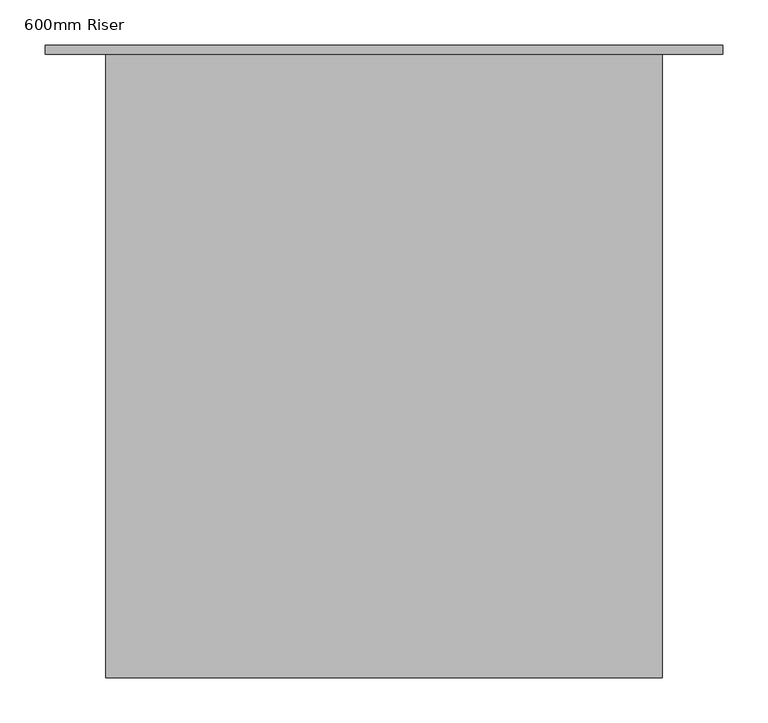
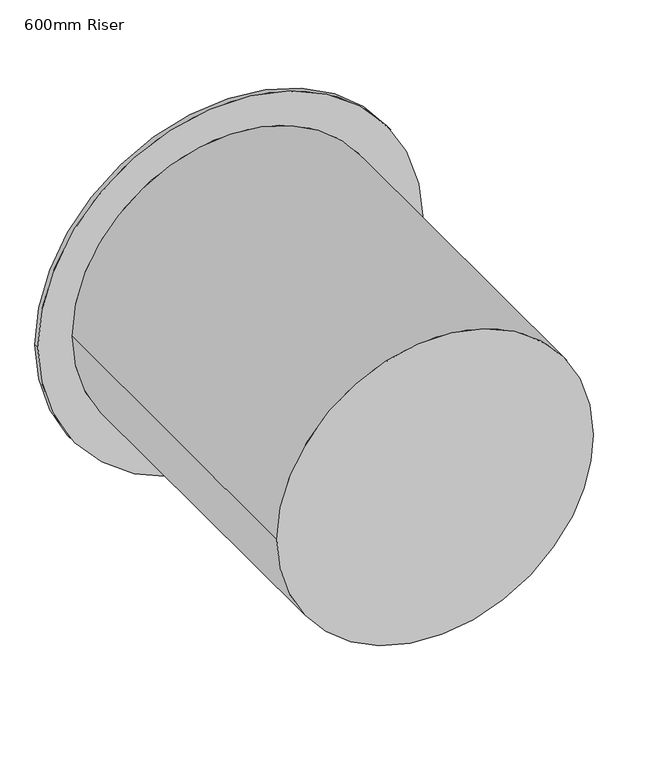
"""IFC4 building model written with IfcOpenShell, lengths in millimetres: proxy geometry, 600mm Riser."""

from ifc_helpers import new_model, si_unit, frame, origin, place, context, project, spatial, circle_curve, source, transform, mapped, element, save
from ifc_brep_helpers import plane_surface, cylinder_surface, advanced_brep


def proxy_600mm_riser_809a013f(model_context):
    return source(origin(), model_context, "Body", "AdvancedBrep", [
        advanced_brep(
        [(-375.0, 2490.0, 0.0), (-375.0, 2500.0, 0.0), (375.0, 2500.0, 0.0), (375.0, 2490.0, 0.0), (-308.0, 1800.0, 0.0), (-308.0, 2490.0, 0.0), (308.0, 2490.0, 0.0), (308.0, 1800.0, 0.0), (267.4864837, 1800.0, -152.6924394)],
        [
            (0, 1),
            (1, 2, circle_curve(frame((0.0, 2500.0, 0.0), z_axis=(0.0, -1.0, 0.0), x_axis=(-1.0, 0.0, 0.0)), 375.0)),
            (2, 3),
            (3, 0, circle_curve(frame((0.0, 2490.0, 0.0), z_axis=(0.0, 1.0, 0.0), x_axis=(-1.0, 0.0, 0.0)), 375.0)),
            (4, 5),
            (5, 6, circle_curve(frame((0.0, 2490.0, 0.0), z_axis=(0.0, -1.0, 0.0), x_axis=(-1.0, 0.0, 0.0)), 308.0)),
            (6, 7),
            (7, 8, circle_curve(frame((0.0, 1800.0, 0.0), z_axis=(0.0, 1.0, 0.0), x_axis=(-1.0, 0.0, 0.0)), 308.0)),
            (8, 4, circle_curve(frame((0.0, 1800.0, 0.0), z_axis=(0.0, 1.0, 0.0), x_axis=(-1.0, 0.0, 0.0)), 308.0)),
            (1, 2, circle_curve(frame((0.0, 2500.0, 0.0), z_axis=(0.0, 1.0, 0.0), x_axis=(-1.0, 0.0, 0.0)), 375.0)),
            (7, 4, circle_curve(frame((0.0, 1800.0, 0.0), z_axis=(0.0, -1.0, 0.0), x_axis=(-1.0, 0.0, 0.0)), 308.0)),
            (6, 5, circle_curve(frame((0.0, 2490.0, 0.0), z_axis=(0.0, -1.0, 0.0), x_axis=(-1.0, 0.0, 0.0)), 308.0)),
            (3, 0, circle_curve(frame((0.0, 2490.0, 0.0), z_axis=(0.0, -1.0, 0.0), x_axis=(-1.0, 0.0, 0.0)), 375.0)),
        ],
        [
            cylinder_surface(frame((0.0, 2495.0, 0.0), z_axis=(0.0, 1.0, 0.0), x_axis=(-1.0, 0.0, 0.0)), 375.0),
            cylinder_surface(frame((0.0, 1245.0, 0.0), z_axis=(0.0, 1.0, 0.0), x_axis=(-1.0, 0.0, 0.0)), 308.0),
            plane_surface(frame((-300.0, 2500.0, 0.0), z_axis=(0.0, 1.0, 0.0), x_axis=(0.0, 0.0, 1.0))),
            plane_surface(frame((0.0, 1800.0, 0.0), z_axis=(0.0, -1.0, 0.0), x_axis=(-0.49575467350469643, 0.0, -0.8684626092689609))),
            plane_surface(frame((-375.0, 2490.0, 0.0), z_axis=(0.0, -1.0, 0.0), x_axis=(0.0, 0.0, -1.0))),
        ],
        [
            (0, [[1, 2, 3, 4]]),
            (1, [[5, 6, 7, 8, 9]]),
            (2, [[10, -2]]),
            (3, [[-9, -8, 11]]),
            (1, [[-5, -11, -7, 12]]),
            (4, [[13, -4], [-12, -6]]),
            (0, [[-1, -13, -3, -10]]),
        ],
    ),
    ])


if __name__ == "__main__":
    model = new_model("IFC4")
    model_context = context("Model", 3, world=origin())
    ifc_project = project(units=[si_unit("LENGTHUNIT", "METRE", prefix="MILLI")], contexts=[model_context])
    site = spatial("IfcSite", under=ifc_project)
    building = spatial("IfcBuilding", under=site)
    placement = place(None, origin())
    proxy_600mm_riser_shape = proxy_600mm_riser_809a013f(model_context)
    element("IfcBuildingElementProxy", 1, Name="600mm Riser", ObjectType="600mm Riser", at=placement, inside=building, context=model_context, shape_type="MappedRepresentation", body=[
        mapped(proxy_600mm_riser_shape, transform((0.0, 0.0, 0.0), x_axis=(1.0, 0.0, 0.0), y_axis=(0.0, 1.0, 0.0), z_axis=(0.0, 0.0, 1.0))),
    ])
    save(model, "model.ifc")
